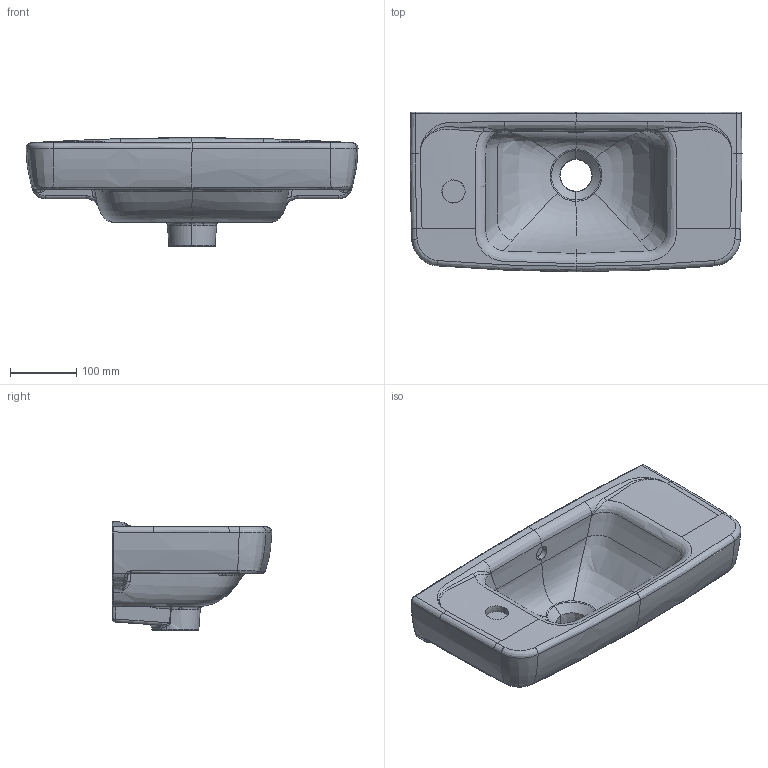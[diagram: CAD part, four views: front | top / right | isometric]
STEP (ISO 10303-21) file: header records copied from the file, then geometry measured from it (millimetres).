
FILE_DESCRIPTION(/* description */ (''),/* implementation_level */ '2;1');
FILE_NAME(/* name */ '439350.stp',/* time_stamp */ '2021-05-27T13:19:38+02:00',/* author */ (''),/* organization */ (''),/* preprocessor_version */ 'ST-DEVELOPER v16.7',/* originating_system */ 'SIEMENS PLM Software NX 1863',/* authorisation */ '');
FILE_SCHEMA (('AUTOMOTIVE_DESIGN { 1 0 10303 214 3 1 1 1 }'));
Products named in the file (1): koeb394416B3riqj
Bounding box: 499.93 x 239.97 x 163.56 mm (x, y, z)
Volume: 5473460.8 mm3; surface area: 458406.2 mm2
Topology: 1 solids, 1 shells, 298 faces, 724 edges, 407 vertices
Faces by surface type: bspline 232, sphere 16, cone 16, plane 12, torus 12, extrusion 6, cylinder 2, revolution 2
Entity records: 37229 total; most frequent: CARTESIAN_POINT 32184, ORIENTED_EDGE 1408, EDGE_CURVE 704, B_SPLINE_CURVE_WITH_KNOTS 510, DIRECTION 505, VERTEX_POINT 407, EDGE_LOOP 299, ADVANCED_FACE 298
